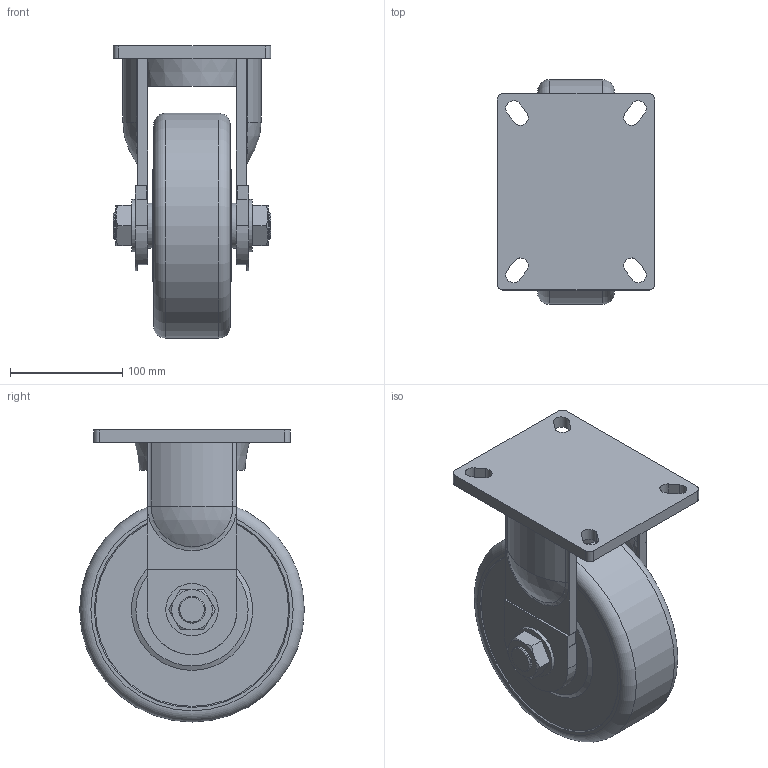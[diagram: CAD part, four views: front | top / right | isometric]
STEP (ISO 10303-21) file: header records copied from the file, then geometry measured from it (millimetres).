
FILE_DESCRIPTION((''),'2;1');
FILE_NAME('C:\Documents and Settings\Administrator\바탕 화면\3D STEP\GXT-SERIES\GXT-200\GXT-200-RF-MCD\GXT-200-RF(MCD).stp','2010-12-27T14:42:34',('Administrator'),(''),'Autodesk Inventor 2009','Autodesk Inventor 2009','');
FILE_SCHEMA(('AUTOMOTIVE_DESIGN { 1 0 10303 214 1 1 1 1 }'));
Length unit declared in the file: millimetre
Products named in the file (1): GXT-200-RF(MCD)
Bounding box: 140 x 200 x 260 mm (x, y, z)
Volume: 2687027.7 mm3; surface area: 269560.6 mm2
Topology: 8 solids, 8 shells, 228 faces, 546 edges, 354 vertices
Faces by surface type: plane 114, cylinder 70, cone 15, bspline 15, torus 10, sphere 4
Full cylindrical faces by diameter (mm): 22 x2, 24 x6, 24.3 x2, 24.5 x2, 26 x2, 30 x4, 35 x1, 40 x2, 40.667 x4, 46.7 x2, 51.333 x4, 55 x1, 62 x2, 78 x1, 200 x1
Entity records: 6878 total; most frequent: CARTESIAN_POINT 1799, DIRECTION 1062, ORIENTED_EDGE 922, EDGE_CURVE 461, AXIS2_PLACEMENT_3D 407, EDGE_LOOP 344, VERTEX_POINT 337, VECTOR 248
